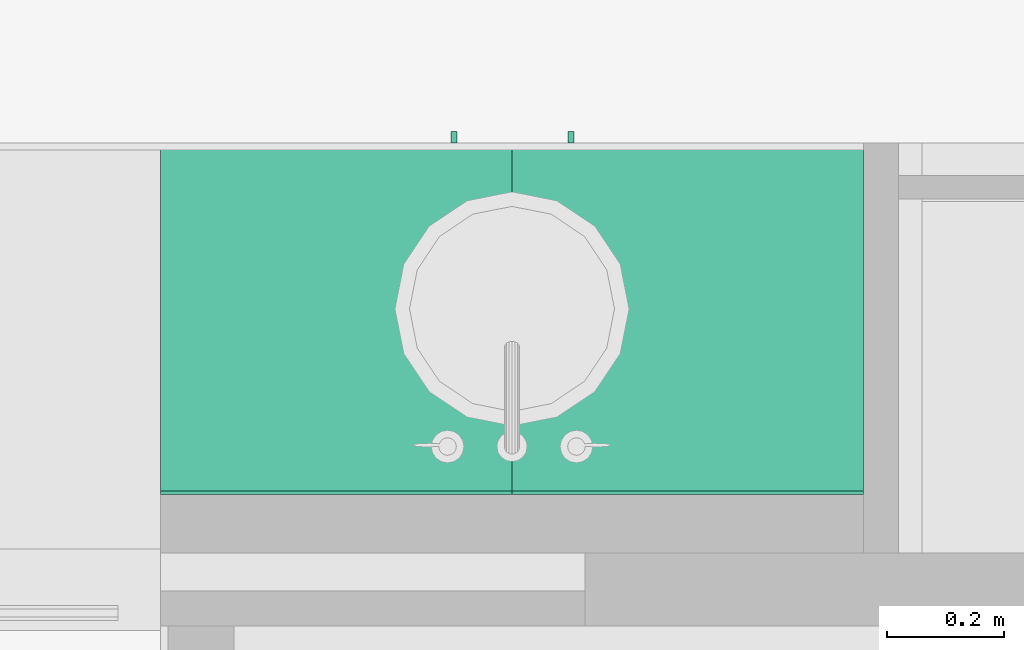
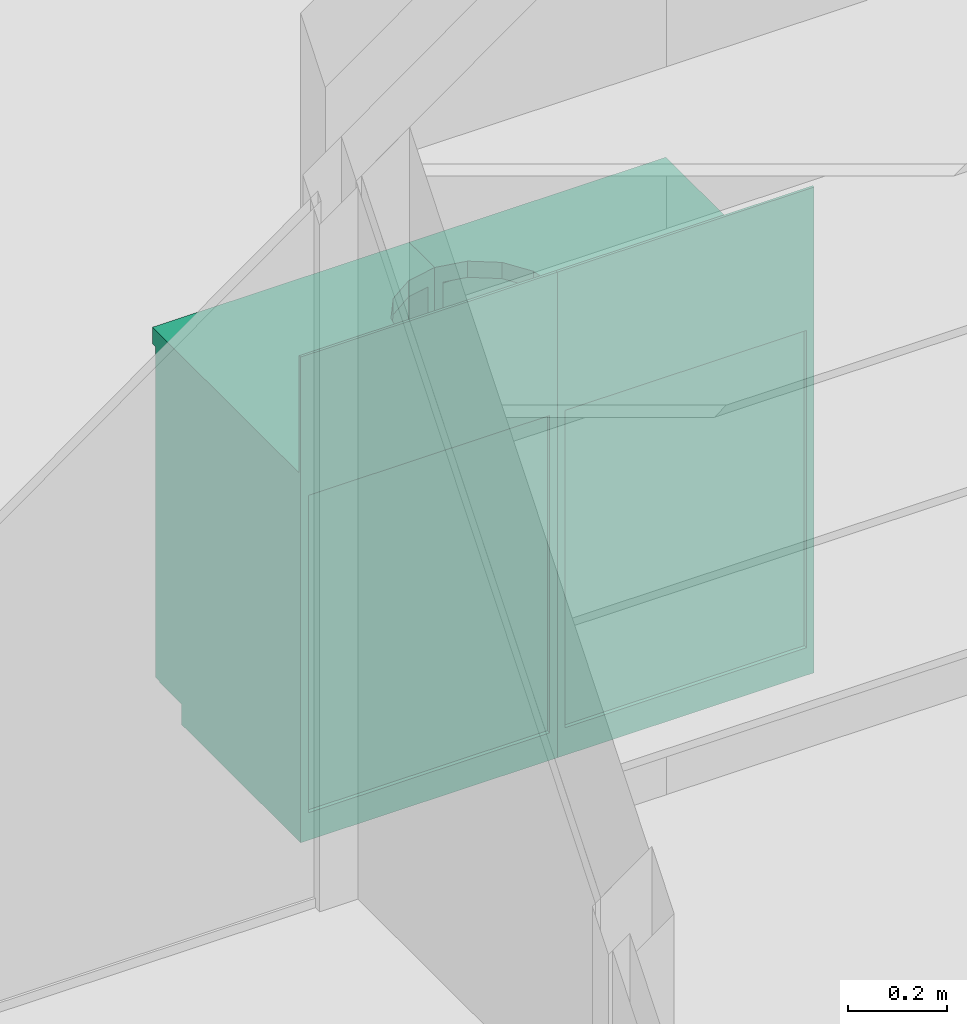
# One storey, part 308 of 347: 2 distribution elements.
"""IFC2X3 building model written with IfcOpenShell, lengths in millimetres."""

import ifcopenshell
import ifcopenshell.guid

model = None  # the IFC model being written
_history = None  # IfcOwnerHistory: only IFC2X3 demands one
_inside = {}  # id of a spatial element -> (the spatial element, [elements in it])
_under = {}  # id of a project, library or spatial element -> (it, [spatial elements below it])
_declared = {}  # id of a project -> (the project, [libraries it declares])
_typed = {}  # id of a type object -> (the type object, [elements of that type])
_made_of = {}  # id of a material, layer set ... -> (it, [elements and type objects made of it])


def new_model(schema):
    """Start an empty IFC model of exactly this schema.

    Asked for "IFC4X3", IfcOpenShell would pick the latest addendum, in which some entities
    have other attributes; the version numbers below select the first issue.
    IFC2X3 requires an IfcOwnerHistory on every rooted entity: one is made here for all.
    """
    global model, _history
    if schema == "IFC4X3":
        model = ifcopenshell.file(schema_version=(4, 3, 0, 0))
    else:
        model = ifcopenshell.file(schema=schema)
    _inside.clear()
    _under.clear()
    _declared.clear()
    _typed.clear()
    _made_of.clear()
    _history = None
    if model.schema == "IFC2X3":
        org = make("IfcOrganization", Name="unknown")
        user = make(
            "IfcPersonAndOrganization",
            ThePerson=make("IfcPerson", FamilyName="unknown"),
            TheOrganization=org,
        )
        app = make(
            "IfcApplication",
            ApplicationDeveloper=org,
            Version="unknown",
            ApplicationFullName="unknown",
            ApplicationIdentifier="unknown",
        )
        _history = make(
            "IfcOwnerHistory",
            OwningUser=user,
            OwningApplication=app,
            ChangeAction="ADDED",
            CreationDate=0,
        )
    return model


def make(cls, **values):
    """One entity of the class cls with the attributes given. An attribute that is None is left unset."""
    return model.create_entity(
        cls, **{name: value for name, value in values.items() if value is not None}
    )


def entity(cls, *values):
    """Any entity or typed value of the class cls, its attributes in the order of the schema. None: left unset."""
    e = model.create_entity(cls)
    for i, value in enumerate(values):
        if value is not None:
            e[i] = value
    return e


def rooted(cls, **values):
    """An entity with a GlobalId (a new one), such as an element, a storey or a relation."""
    return make(cls, GlobalId=ifcopenshell.guid.new(), OwnerHistory=_history, **values)


def si_unit(unit_type, name, prefix=None):
    """IfcSIUnit, for example si_unit("LENGTHUNIT", "METRE", prefix="MILLI")."""
    return make("IfcSIUnit", UnitType=unit_type, Prefix=prefix, Name=name)


def converted_unit(unit_type, name, factor, base, dimensions=None, offset=None):
    """IfcConversionBasedUnit, such as the inch: factor (a typed value) times the base unit."""
    return make(
        "IfcConversionBasedUnit"
        if offset is None
        else "IfcConversionBasedUnitWithOffset",
        ConversionOffset=offset,
        Dimensions=None
        if dimensions is None
        else entity("IfcDimensionalExponents", *dimensions),
        UnitType=unit_type,
        Name=name,
        ConversionFactor=make(
            "IfcMeasureWithUnit", ValueComponent=factor, UnitComponent=base
        ),
    )


def derived_unit(unit_type, elements):
    """IfcDerivedUnit: a product of units, each with its exponent."""
    return make(
        "IfcDerivedUnit",
        Elements=[
            make("IfcDerivedUnitElement", Unit=unit, Exponent=power)
            for unit, power in elements
        ],
        UnitType=unit_type,
    )


def money_unit(currency):
    """IfcMonetaryUnit."""
    return make("IfcMonetaryUnit", Currency=currency)


def assignment(units):
    """IfcUnitAssignment: the units of a project."""
    return None if units is None else make("IfcUnitAssignment", Units=units)


def point(xyz):
    """IfcCartesianPoint."""
    return None if xyz is None else make("IfcCartesianPoint", Coordinates=xyz)


def direction(xyz):
    """IfcDirection."""
    return None if xyz is None else make("IfcDirection", DirectionRatios=xyz)


def frame(location, z_axis=None, x_axis=None):
    """IfcAxis2Placement3D, a coordinate frame: its origin and axes. An axis left out is left unset."""
    return make(
        "IfcAxis2Placement3D",
        Location=point(location),
        Axis=direction(z_axis),
        RefDirection=direction(x_axis),
    )


def origin_with_axes():
    """The frame at (0, 0, 0) with the z axis (0, 0, 1) and the x axis (1, 0, 0) written out."""
    return frame((0.0, 0.0, 0.0), z_axis=(0.0, 0.0, 1.0), x_axis=(1.0, 0.0, 0.0))


def place(relative_to, where):
    """IfcLocalPlacement: puts the frame where relative to a parent placement (None: the world)."""
    return make(
        "IfcLocalPlacement", PlacementRelTo=relative_to, RelativePlacement=where
    )


def context(
    kind, dimensions, precision=None, world=None, true_north=None, identifier=None
):
    """IfcGeometricRepresentationContext, for example the 3D "Model" context."""
    return make(
        "IfcGeometricRepresentationContext",
        ContextIdentifier=identifier,
        ContextType=kind,
        CoordinateSpaceDimension=dimensions,
        Precision=precision,
        WorldCoordinateSystem=world,
        TrueNorth=true_north,
    )


def subcontext(parent, identifier, kind, view, scale=None):
    """IfcGeometricRepresentationSubContext, for example "Body" below "Model"."""
    return make(
        "IfcGeometricRepresentationSubContext",
        ContextIdentifier=identifier,
        ContextType=kind,
        ParentContext=parent,
        TargetScale=scale,
        TargetView=view,
    )


def project(units=None, contexts=None):
    """IfcProject with its units and contexts."""
    return rooted(
        "IfcProject",
        Name="project",
        RepresentationContexts=contexts,
        UnitsInContext=assignment(units),
    )


def spatial(cls, under=None, at=None, **own):
    """A site, building, storey or space (cls), placed at a placement, below another one or the project."""
    s = rooted(cls, ObjectPlacement=at, **own)
    if under is not None:
        _under.setdefault(under.id(), (under, []))[1].append(s)
    return s


def faces_of(points, faces, orient=None, outer=None):
    """IfcFace entities. A face is a list of loops; a loop is a list of indices into points, from 0.

    orient and outer hold one flag for each loop. By default every Orientation is true, the
    first loop of a face is its IfcFaceOuterBound and the others are IfcFaceBound.
    """
    made = []
    for i, loops in enumerate(faces):
        bounds = []
        for j, loop in enumerate(loops):
            is_outer = j == 0 if outer is None else outer[i][j]
            bounds.append(
                make(
                    "IfcFaceOuterBound" if is_outer else "IfcFaceBound",
                    Bound=make("IfcPolyLoop", Polygon=[points[k] for k in loop]),
                    Orientation=True if orient is None else orient[i][j],
                )
            )
        made.append(make("IfcFace", Bounds=bounds))
    return made


def faceted_brep(points, faces, orient=None, outer=None, voids=None):
    """IfcFacetedBrep: a solid bounded by flat faces; with voids (closed shells), ...WithVoids."""
    shared = [point(p) for p in points]
    hull = make("IfcClosedShell", CfsFaces=faces_of(shared, faces, orient, outer))
    if voids is None:
        return make("IfcFacetedBrep", Outer=hull)
    return make(
        "IfcFacetedBrepWithVoids",
        Outer=hull,
        Voids=[
            make(cls, CfsFaces=faces_of(shared, fs, o, b)) for cls, fs, o, b in voids
        ],
    )


def shape(context_of_items, identifier, shape_type, items):
    """IfcShapeRepresentation: the items that make up one representation, for example the "Body"."""
    return make(
        "IfcShapeRepresentation",
        ContextOfItems=context_of_items,
        RepresentationIdentifier=identifier,
        RepresentationType=shape_type,
        Items=items,
    )


def made_of(thing, what):
    """Note that an element or type object is made of a material, layer set ...; save() writes the relation."""
    if what is not None:
        _made_of.setdefault(what.id(), (what, []))[1].append(thing)
    return thing


def type_object(cls, material=None, **own):
    """A type object (cls), such as IfcWallType, which elements share."""
    return made_of(rooted(cls, **own), material)


def element(
    cls,
    number,
    at=None,
    inside=None,
    cuts=None,
    type_object=None,
    material=None,
    context=None,
    identifier="Body",
    shape_type=None,
    held_by="IfcProductDefinitionShape",
    body=None,
    shapes=None,
    **own,
):
    """One element of the class cls, such as IfcWall. Its Tag is "e" and its number.

    at: its placement. inside: the storey or other place that contains it. cuts: it is an
    opening in that element (IfcRelVoidsElement). A single representation is given by context,
    identifier, shape_type and body (its items); several are given by shapes. held_by: the class
    of the entity that holds the representations. save() writes the other relations.
    """
    e = rooted(cls, Tag="e%d" % number, ObjectPlacement=at, **own)
    if body is not None:
        shapes = [shape(context, identifier, shape_type, body)]
    if shapes is not None:
        e.Representation = make(held_by, Representations=shapes)
    if inside is not None:
        _inside.setdefault(inside.id(), (inside, []))[1].append(e)
    if cuts is not None:
        rooted(
            "IfcRelVoidsElement", RelatingBuildingElement=cuts, RelatedOpeningElement=e
        )
    if type_object is not None:
        _typed.setdefault(type_object.id(), (type_object, []))[1].append(e)
    return made_of(e, material)


def aggregate(whole, parts):
    """IfcRelAggregates: a whole, such as a stair, and the parts it consists of."""
    return rooted("IfcRelAggregates", RelatingObject=whole, RelatedObjects=parts)


def save(model, path):
    """Write the relations noted so far, then the file.

    IfcRelAggregates (storeys below a building ...), IfcRelContainedInSpatialStructure (elements
    in a storey), IfcRelDefinesByType, IfcRelAssociatesMaterial and IfcRelDeclares: one each for
    every whole, place, type object, material and project.
    """
    for whole, parts in _under.values():
        aggregate(whole, parts)
    for where, things in _inside.values():
        rooted(
            "IfcRelContainedInSpatialStructure",
            RelatedElements=things,
            RelatingStructure=where,
        )
    for kind, things in _typed.values():
        rooted("IfcRelDefinesByType", RelatedObjects=things, RelatingType=kind)
    for what, things in _made_of.values():
        rooted("IfcRelAssociatesMaterial", RelatedObjects=things, RelatingMaterial=what)
    for by, libraries in _declared.values():
        rooted("IfcRelDeclares", RelatingContext=by, RelatedDefinitions=libraries)
    model.write(path)


model = new_model("IFC2X3")

# Units and contexts
model_context = context("Model", 3, precision=0.01, world=origin_with_axes(), true_north=direction((0.0, 1.0)))
plan_context = context("Plan", 3, precision=0.01, world=origin_with_axes(), true_north=direction((0.0, 1.0)))
body_context = subcontext(model_context, "Body", "Model", "MODEL_VIEW")
ifc_project = project(units=[si_unit("LENGTHUNIT", "METRE", prefix="MILLI"), si_unit("AREAUNIT", "SQUARE_METRE"), si_unit("VOLUMEUNIT", "CUBIC_METRE"), converted_unit("PLANEANGLEUNIT", "DEGREE", entity("IfcPlaneAngleMeasure", 0.0174532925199), si_unit("PLANEANGLEUNIT", "RADIAN"), dimensions=[0, 0, 0, 0, 0, 0, 0]), money_unit("EUR"), converted_unit("TIMEUNIT", "Year", entity("IfcTimeMeasure", 31556926.0), si_unit("TIMEUNIT", "SECOND"), dimensions=[0, 0, 1, 0, 0, 0, 0]), si_unit("MASSUNIT", "GRAM", prefix="KILO"), si_unit("THERMODYNAMICTEMPERATUREUNIT", "DEGREE_CELSIUS"), si_unit("LUMINOUSINTENSITYUNIT", "LUMEN"), si_unit("ENERGYUNIT", "JOULE", prefix="MEGA"), derived_unit("THERMALCONDUCTANCEUNIT", [(si_unit("POWERUNIT", "WATT"), 1), (si_unit("LENGTHUNIT", "METRE"), -1), (si_unit("THERMODYNAMICTEMPERATUREUNIT", "KELVIN"), -1)]), derived_unit("SPECIFICHEATCAPACITYUNIT", [(si_unit("ENERGYUNIT", "JOULE"), 1), (si_unit("MASSUNIT", "GRAM", prefix="KILO"), -1), (si_unit("THERMODYNAMICTEMPERATUREUNIT", "KELVIN"), -1)]), derived_unit("MASSDENSITYUNIT", [(si_unit("MASSUNIT", "GRAM", prefix="KILO"), 1), (si_unit("VOLUMEUNIT", "CUBIC_METRE"), -1)])], contexts=[model_context, plan_context])

# Site, building, storey
site_placement = place(None, origin_with_axes())
site = spatial("IfcSite", under=ifc_project, at=site_placement, Name="Site", CompositionType="ELEMENT")
building_placement = place(site_placement, origin_with_axes())
building = spatial("IfcBuilding", under=site, at=building_placement, Name="Naam gebouw", CompositionType="ELEMENT")
storey_placement = place(building_placement, origin_with_axes())
storey = spatial("IfcBuildingStorey", under=building, at=storey_placement, Name="begane grond", CompositionType="ELEMENT", Elevation=0.0)

# Distribution elements
distribution_element_type = type_object("IfcDistributionElementType", Name="Onderkast recht 25")
distribution_element_1_placement = place(storey_placement, frame((51350.0, 39187.5, 0.0), z_axis=(0.0, 0.0, 1.0), x_axis=(-1.0, 0.0, 0.0)))
element("IfcDistributionElement", 1, at=distribution_element_1_placement, inside=storey, type_object=distribution_element_type, Name="65 Beveiliging_82 pantryblok", context=body_context, shape_type="Brep", body=[
    faceted_brep([(-127.279220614, -444.012913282, 910.0), (-166.298315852, -385.616710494, 910.0), (-180.0, -316.733692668, 910.0), (-166.298315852, -247.850674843, 910.0), (-127.279220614, -189.454472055, 910.0), (-68.8830178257, -150.435376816, 910.0), (0.0, -136.733692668, 910.0), (0.0, 0.0, 910.0), (-600.0, 0.0, 910.0), (-600.0, -600.0, 910.0), (0.0, -600.0, 910.0), (0.0, -496.733692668, 910.0), (-68.8830178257, -483.03200852, 910.0), (-127.279220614, -444.012913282, 870.0), (-166.298315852, -385.616710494, 870.0), (-180.0, -316.733692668, 870.0), (-166.298315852, -247.850674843, 870.0), (-127.279220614, -189.454472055, 870.0), (-68.8830178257, -150.435376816, 870.0), (0.0, -136.733692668, 870.0), (0.0, 0.0, 870.0), (-600.0, 0.0, 870.0), (-600.0, -600.0, 870.0), (0.0, -600.0, 870.0), (0.0, -496.733692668, 870.0), (-68.8830178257, -483.03200852, 870.0)], [[[0, 1, 2, 3, 4, 5, 6, 7, 8, 9, 10, 11, 12]], [[1, 0, 13, 14]], [[2, 1, 14, 15]], [[3, 2, 15, 16]], [[4, 3, 16, 17]], [[5, 4, 17, 18]], [[6, 5, 18, 19]], [[6, 19, 20, 7]], [[20, 21, 8, 7]], [[21, 22, 9, 8]], [[22, 23, 10, 9]], [[24, 11, 10, 23]], [[12, 11, 24, 25]], [[0, 12, 25, 13]], [[25, 24, 23, 22, 21, 20, 19, 18, 17, 16, 15, 14, 13]]]),
    faceted_brep([(-18.0, -512.0, 852.0), (-18.0, -572.0, 852.0), (-582.0, -572.0, 852.0), (-582.0, -512.0, 852.0), (-18.0, -572.0, 870.0), (-18.0, -512.0, 870.0), (-582.0, -572.0, 870.0), (-582.0, -512.0, 870.0)], [[[0, 1, 2, 3]], [[4, 1, 0, 5]], [[1, 4, 6, 2]], [[3, 2, 6, 7]], [[5, 0, 3, 7]], [[4, 5, 7, 6]]]),
    faceted_brep([(-18.0, -9.0, 68.0), (-582.0, -9.0, 68.0), (-582.0, -9.0, 852.0), (-18.0, -9.0, 852.0), (-582.0, -18.0, 68.0), (-18.0, -18.0, 68.0), (-582.0, -18.0, 852.0), (-18.0, -18.0, 852.0)], [[[0, 1, 2, 3]], [[4, 1, 0, 5]], [[1, 4, 6, 2]], [[3, 2, 6, 7]], [[5, 0, 3, 7]], [[4, 5, 7, 6]]]),
    faceted_brep([(-582.0, -60.0, 852.0), (-582.0, 0.0, 852.0), (-18.0, 0.0, 852.0), (-18.0, -60.0, 852.0), (-582.0, 0.0, 870.0), (-582.0, -60.0, 870.0), (-18.0, 0.0, 870.0), (-18.0, -60.0, 870.0)], [[[0, 1, 2, 3]], [[4, 1, 0, 5]], [[1, 4, 6, 2]], [[3, 2, 6, 7]], [[5, 0, 3, 7]], [[4, 5, 7, 6]]]),
    faceted_brep([(-14.8492424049, -201.884450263, 710.0), (-18.0, -205.990597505, 710.0), (-18.0, -205.990597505, 690.0), (-14.8492424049, -201.884450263, 690.0), (-18.0, -140.314115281, 710.0), (-10.5, -198.547159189, 710.0), (-5.43519994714, -196.449250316, 710.0), (0.0, -195.733692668, 710.0), (0.0, -136.733692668, 710.0), (-18.0, -493.153270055, 710.0), (-18.0, -227.476787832, 710.0), (-18.0, -227.476787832, 690.0), (-18.0, -140.314115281, 870.0), (-18.0, 0.0, 870.0), (-18.0, 0.0, 50.0), (-18.0, -572.0, 50.0), (-18.0, -572.0, 870.0), (-18.0, -493.153270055, 870.0), (-14.8492424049, -231.582935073, 690.0), (-10.5, -234.920226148, 690.0), (-5.43519994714, -237.01813502, 690.0), (0.0, -237.733692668, 690.0), (0.0, -195.733692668, 690.0), (-5.43519994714, -196.449250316, 690.0), (-10.5, -198.547159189, 690.0), (0.0, -496.733692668, 710.0), (0.0, -496.733692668, 870.0), (0.0, -572.0, 870.0), (0.0, -572.0, 50.0), (0.0, 0.0, 50.0), (0.0, 0.0, 870.0), (0.0, -136.733692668, 870.0), (0.0, -237.733692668, 710.0), (-5.43519994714, -237.01813502, 710.0), (-10.5, -234.920226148, 710.0), (-14.8492424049, -231.582935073, 710.0)], [[[0, 1, 2, 3]], [[4, 1, 0, 5, 6, 7, 8]], [[9, 10, 11, 2, 1, 4, 12, 13, 14, 15, 16, 17]], [[2, 11, 18, 19, 20, 21, 22, 23, 24, 3]], [[5, 0, 3, 24]], [[6, 5, 24, 23]], [[7, 6, 23, 22]], [[25, 26, 27, 28, 29, 30, 31, 8, 7, 22, 21, 32]], [[31, 12, 4, 8]], [[10, 9, 25, 32, 33, 34, 35]], [[10, 35, 18, 11]], [[12, 31, 30, 13]], [[29, 14, 13, 30]], [[14, 29, 28, 15]], [[15, 28, 27, 16]], [[26, 17, 16, 27]], [[9, 17, 26, 25]], [[35, 34, 19, 18]], [[34, 33, 20, 19]], [[33, 32, 21, 20]]]),
    faceted_brep([(-600.0, 0.0, 50.0), (-600.0, -572.0, 50.0), (-600.0, -572.0, 870.0), (-600.0, 0.0, 870.0), (-582.0, -572.0, 50.0), (-582.0, 0.0, 50.0), (-582.0, -572.0, 870.0), (-582.0, 0.0, 870.0)], [[[0, 1, 2, 3]], [[4, 1, 0, 5]], [[1, 4, 6, 2]], [[3, 2, 6, 7]], [[5, 0, 3, 7]], [[4, 5, 7, 6]]]),
    faceted_brep([(-600.0, 0.0, 910.0), (0.0, 0.0, 910.0), (0.0, -6.0, 910.0), (-600.0, -6.0, 910.0), (-600.0, 0.0, 1200.0), (0.0, 0.0, 1200.0), (0.0, -6.0, 1200.0), (-600.0, -6.0, 1200.0)], [[[0, 1, 2, 3]], [[4, 5, 1, 0]], [[1, 5, 6, 2]], [[3, 2, 6, 7]], [[0, 3, 7, 4]], [[7, 6, 5, 4]]]),
    faceted_brep([(-96.0, -590.0, 386.0), (-106.0, -590.0, 386.0), (-106.0, -590.0, 396.0), (-96.0, -590.0, 396.0), (-96.0, -600.0, 386.0), (-106.0, -600.0, 386.0), (-106.0, -603.472963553, 386.30384494), (-106.0, -606.840402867, 387.206147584), (-106.0, -610.0, 388.679491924), (-106.0, -612.855752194, 390.679111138), (-106.0, -615.320888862, 393.144247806), (-106.0, -617.320508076, 396.0), (-106.0, -618.793852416, 399.159597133), (-106.0, -619.69615506, 402.527036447), (-106.0, -620.0, 406.0), (-106.0, -620.0, 516.0), (-106.0, -619.69615506, 519.472963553), (-106.0, -618.793852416, 522.840402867), (-106.0, -617.320508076, 526.0), (-106.0, -615.320888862, 528.855752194), (-106.0, -612.855752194, 531.320888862), (-106.0, -610.0, 533.320508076), (-106.0, -606.840402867, 534.793852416), (-106.0, -603.472963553, 535.69615506), (-106.0, -600.0, 536.0), (-106.0, -590.0, 536.0), (-106.0, -590.0, 526.0), (-106.0, -600.0, 526.0), (-106.0, -601.736481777, 525.84807753), (-106.0, -603.420201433, 525.396926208), (-106.0, -605.0, 524.660254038), (-106.0, -606.427876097, 523.660444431), (-106.0, -607.660444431, 522.427876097), (-106.0, -608.660254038, 521.0), (-106.0, -609.396926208, 519.420201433), (-106.0, -609.84807753, 517.736481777), (-106.0, -610.0, 516.0), (-106.0, -610.0, 406.0), (-106.0, -609.84807753, 404.263518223), (-106.0, -609.396926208, 402.579798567), (-106.0, -608.660254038, 401.0), (-106.0, -607.660444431, 399.572123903), (-106.0, -606.427876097, 398.339555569), (-106.0, -605.0, 397.339745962), (-106.0, -603.420201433, 396.603073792), (-106.0, -601.736481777, 396.15192247), (-106.0, -600.0, 396.0), (-96.0, -600.0, 396.0), (-96.0, -601.736481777, 396.15192247), (-96.0, -603.420201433, 396.603073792), (-96.0, -605.0, 397.339745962), (-96.0, -606.427876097, 398.339555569), (-96.0, -607.660444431, 399.572123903), (-96.0, -608.660254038, 401.0), (-96.0, -609.396926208, 402.579798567), (-96.0, -609.84807753, 404.263518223), (-96.0, -610.0, 406.0), (-96.0, -610.0, 516.0), (-96.0, -609.84807753, 517.736481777), (-96.0, -609.396926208, 519.420201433), (-96.0, -608.660254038, 521.0), (-96.0, -607.660444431, 522.427876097), (-96.0, -606.427876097, 523.660444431), (-96.0, -605.0, 524.660254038), (-96.0, -603.420201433, 525.396926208), (-96.0, -601.736481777, 525.84807753), (-96.0, -600.0, 526.0), (-96.0, -590.0, 526.0), (-96.0, -590.0, 536.0), (-96.0, -600.0, 536.0), (-96.0, -603.472963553, 535.69615506), (-96.0, -606.840402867, 534.793852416), (-96.0, -610.0, 533.320508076), (-96.0, -612.855752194, 531.320888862), (-96.0, -615.320888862, 528.855752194), (-96.0, -617.320508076, 526.0), (-96.0, -618.793852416, 522.840402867), (-96.0, -619.69615506, 519.472963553), (-96.0, -620.0, 516.0), (-96.0, -620.0, 406.0), (-96.0, -619.69615506, 402.527036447), (-96.0, -618.793852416, 399.159597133), (-96.0, -617.320508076, 396.0), (-96.0, -615.320888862, 393.144247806), (-96.0, -612.855752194, 390.679111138), (-96.0, -610.0, 388.679491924), (-96.0, -606.840402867, 387.206147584), (-96.0, -603.472963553, 386.30384494)], [[[0, 1, 2, 3]], [[4, 5, 1, 0]], [[1, 5, 6, 7, 8, 9, 10, 11, 12, 13, 14, 15, 16, 17, 18, 19, 20, 21, 22, 23, 24, 25, 26, 27, 28, 29, 30, 31, 32, 33, 34, 35, 36, 37, 38, 39, 40, 41, 42, 43, 44, 45, 46, 2]], [[3, 2, 46, 47]], [[0, 3, 47, 48, 49, 50, 51, 52, 53, 54, 55, 56, 57, 58, 59, 60, 61, 62, 63, 64, 65, 66, 67, 68, 69, 70, 71, 72, 73, 74, 75, 76, 77, 78, 79, 80, 81, 82, 83, 84, 85, 86, 87, 4]], [[87, 6, 5, 4]], [[86, 7, 6, 87]], [[85, 8, 7, 86]], [[84, 9, 8, 85]], [[83, 10, 9, 84]], [[82, 11, 10, 83]], [[81, 12, 11, 82]], [[80, 13, 12, 81]], [[79, 14, 13, 80]], [[78, 15, 14, 79]], [[77, 16, 15, 78]], [[76, 17, 16, 77]], [[75, 18, 17, 76]], [[74, 19, 18, 75]], [[73, 20, 19, 74]], [[72, 21, 20, 73]], [[71, 22, 21, 72]], [[70, 23, 22, 71]], [[69, 24, 23, 70]], [[68, 25, 24, 69]], [[67, 26, 25, 68]], [[66, 27, 26, 67]], [[65, 28, 27, 66]], [[64, 29, 28, 65]], [[63, 30, 29, 64]], [[62, 31, 30, 63]], [[61, 32, 31, 62]], [[60, 33, 32, 61]], [[59, 34, 33, 60]], [[58, 35, 34, 59]], [[57, 36, 35, 58]], [[56, 37, 36, 57]], [[55, 38, 37, 56]], [[54, 39, 38, 55]], [[53, 40, 39, 54]], [[52, 41, 40, 53]], [[51, 42, 41, 52]], [[50, 43, 42, 51]], [[49, 44, 43, 50]], [[48, 45, 44, 49]], [[47, 46, 45, 48]]]),
    faceted_brep([(-0.999999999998, -572.0, 51.0), (-0.999999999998, -590.0, 51.0), (-599.0, -590.0, 51.0), (-599.0, -572.0, 51.0), (-0.999999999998, -572.0, 869.0), (-0.999999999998, -590.0, 869.0), (-599.0, -590.0, 869.0), (-599.0, -572.0, 869.0)], [[[0, 1, 2, 3]], [[4, 5, 1, 0]], [[1, 5, 6, 2]], [[3, 2, 6, 7]], [[0, 3, 7, 4]], [[7, 6, 5, 4]]]),
    faceted_brep([(-18.0, -572.0, 50.0), (-18.0, -572.0, 68.0), (-582.0, -572.0, 68.0), (-582.0, -572.0, 50.0), (-18.0, 0.0, 50.0), (-18.0, 0.0, 68.0), (-582.0, 0.0, 68.0), (-582.0, 0.0, 50.0)], [[[0, 1, 2, 3]], [[4, 5, 1, 0]], [[1, 5, 6, 2]], [[3, 2, 6, 7]], [[0, 3, 7, 4]], [[7, 6, 5, 4]]]),
    faceted_brep([(0.0, -482.0, 0.0), (0.0, -482.0, 50.0), (-600.0, -482.0, 50.0), (-600.0, -482.0, 0.0), (0.0, 0.0, 0.0), (0.0, 0.0, 50.0), (-600.0, 0.0, 50.0), (-600.0, 0.0, 0.0)], [[[0, 1, 2, 3]], [[4, 5, 1, 0]], [[1, 5, 6, 2]], [[3, 2, 6, 7]], [[0, 3, 7, 4]], [[7, 6, 5, 4]]]),
])
distribution_element_2_placement = place(storey_placement, frame((50750.0, 39187.5, 0.0), z_axis=(0.0, 0.0, 1.0), x_axis=(-1.0, 0.0, 0.0)))
element("IfcDistributionElement", 2, at=distribution_element_2_placement, inside=storey, type_object=distribution_element_type, Name="65 Beveiliging_82 pantryblok", context=body_context, shape_type="Brep", body=[
    faceted_brep([(-472.720779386, -444.012913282, 910.0), (-531.116982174, -483.03200852, 910.0), (-600.0, -496.733692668, 910.0), (-600.0, -600.0, 910.0), (0.0, -600.0, 910.0), (0.0, 0.0, 910.0), (-600.0, 0.0, 910.0), (-600.0, -136.733692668, 910.0), (-531.116982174, -150.435376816, 910.0), (-472.720779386, -189.454472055, 910.0), (-433.701684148, -247.850674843, 910.0), (-420.0, -316.733692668, 910.0), (-433.701684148, -385.616710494, 910.0), (-472.720779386, -444.012913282, 870.0), (-531.116982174, -483.03200852, 870.0), (-600.0, -496.733692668, 870.0), (-600.0, -600.0, 870.0), (0.0, -600.0, 870.0), (0.0, 0.0, 870.0), (-600.0, 0.0, 870.0), (-600.0, -136.733692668, 870.0), (-531.116982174, -150.435376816, 870.0), (-472.720779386, -189.454472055, 870.0), (-433.701684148, -247.850674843, 870.0), (-420.0, -316.733692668, 870.0), (-433.701684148, -385.616710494, 870.0)], [[[0, 1, 2, 3, 4, 5, 6, 7, 8, 9, 10, 11, 12]], [[1, 0, 13, 14]], [[2, 1, 14, 15]], [[2, 15, 16, 3]], [[16, 17, 4, 3]], [[17, 18, 5, 4]], [[18, 19, 6, 5]], [[20, 7, 6, 19]], [[8, 7, 20, 21]], [[9, 8, 21, 22]], [[10, 9, 22, 23]], [[11, 10, 23, 24]], [[12, 11, 24, 25]], [[0, 12, 25, 13]], [[21, 20, 19, 18, 17, 16, 15, 14, 13, 25, 24, 23, 22]]]),
    faceted_brep([(-18.0, -512.0, 852.0), (-18.0, -572.0, 852.0), (-582.0, -572.0, 852.0), (-582.0, -512.0, 852.0), (-18.0, -572.0, 870.0), (-18.0, -512.0, 870.0), (-582.0, -572.0, 870.0), (-582.0, -512.0, 870.0)], [[[0, 1, 2, 3]], [[4, 1, 0, 5]], [[1, 4, 6, 2]], [[3, 2, 6, 7]], [[5, 0, 3, 7]], [[4, 5, 7, 6]]]),
    faceted_brep([(-18.0, -9.0, 68.0), (-582.0, -9.0, 68.0), (-582.0, -9.0, 852.0), (-18.0, -9.0, 852.0), (-582.0, -18.0, 68.0), (-18.0, -18.0, 68.0), (-582.0, -18.0, 852.0), (-18.0, -18.0, 852.0)], [[[0, 1, 2, 3]], [[4, 1, 0, 5]], [[1, 4, 6, 2]], [[3, 2, 6, 7]], [[5, 0, 3, 7]], [[4, 5, 7, 6]]]),
    faceted_brep([(-582.0, -60.0, 852.0), (-582.0, 0.0, 852.0), (-18.0, 0.0, 852.0), (-18.0, -60.0, 852.0), (-582.0, 0.0, 870.0), (-582.0, -60.0, 870.0), (-18.0, 0.0, 870.0), (-18.0, -60.0, 870.0)], [[[0, 1, 2, 3]], [[4, 1, 0, 5]], [[1, 4, 6, 2]], [[3, 2, 6, 7]], [[5, 0, 3, 7]], [[4, 5, 7, 6]]]),
    faceted_brep([(0.0, -572.0, 50.0), (0.0, 0.0, 50.0), (0.0, 0.0, 870.0), (0.0, -572.0, 870.0), (-18.0, 0.0, 50.0), (-18.0, -572.0, 50.0), (-18.0, 0.0, 870.0), (-18.0, -572.0, 870.0)], [[[0, 1, 2, 3]], [[4, 1, 0, 5]], [[1, 4, 6, 2]], [[3, 2, 6, 7]], [[5, 0, 3, 7]], [[4, 5, 7, 6]]]),
    faceted_brep([(-594.564800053, -196.449250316, 710.0), (-600.0, -195.733692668, 710.0), (-600.0, -195.733692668, 690.0), (-594.564800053, -196.449250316, 690.0), (-600.0, -136.733692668, 710.0), (-589.5, -198.547159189, 710.0), (-585.150757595, -201.884450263, 710.0), (-582.0, -205.990597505, 710.0), (-582.0, -140.314115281, 710.0), (-600.0, -496.733692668, 710.0), (-600.0, -237.733692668, 710.0), (-600.0, -237.733692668, 690.0), (-600.0, -136.733692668, 870.0), (-600.0, 0.0, 870.0), (-600.0, 0.0, 50.0), (-600.0, -572.0, 50.0), (-600.0, -572.0, 870.0), (-600.0, -496.733692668, 870.0), (-594.564800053, -237.01813502, 690.0), (-589.5, -234.920226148, 690.0), (-585.150757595, -231.582935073, 690.0), (-582.0, -227.476787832, 690.0), (-582.0, -205.990597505, 690.0), (-585.150757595, -201.884450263, 690.0), (-589.5, -198.547159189, 690.0), (-582.0, -493.153270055, 710.0), (-582.0, -493.153270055, 870.0), (-582.0, -572.0, 870.0), (-582.0, -572.0, 50.0), (-582.0, 0.0, 50.0), (-582.0, 0.0, 870.0), (-582.0, -140.314115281, 870.0), (-582.0, -227.476787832, 710.0), (-585.150757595, -231.582935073, 710.0), (-589.5, -234.920226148, 710.0), (-594.564800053, -237.01813502, 710.0)], [[[0, 1, 2, 3]], [[4, 1, 0, 5, 6, 7, 8]], [[9, 10, 11, 2, 1, 4, 12, 13, 14, 15, 16, 17]], [[2, 11, 18, 19, 20, 21, 22, 23, 24, 3]], [[5, 0, 3, 24]], [[6, 5, 24, 23]], [[7, 6, 23, 22]], [[25, 26, 27, 28, 29, 30, 31, 8, 7, 22, 21, 32]], [[31, 12, 4, 8]], [[10, 9, 25, 32, 33, 34, 35]], [[10, 35, 18, 11]], [[12, 31, 30, 13]], [[29, 14, 13, 30]], [[28, 15, 14, 29]], [[15, 28, 27, 16]], [[26, 17, 16, 27]], [[17, 26, 25, 9]], [[35, 34, 19, 18]], [[34, 33, 20, 19]], [[33, 32, 21, 20]]]),
    faceted_brep([(-600.0, 0.0, 910.0), (0.0, 0.0, 910.0), (0.0, -6.0, 910.0), (-600.0, -6.0, 910.0), (-600.0, 0.0, 1200.0), (0.0, 0.0, 1200.0), (0.0, -6.0, 1200.0), (-600.0, -6.0, 1200.0)], [[[0, 1, 2, 3]], [[4, 5, 1, 0]], [[1, 5, 6, 2]], [[3, 2, 6, 7]], [[0, 3, 7, 4]], [[7, 6, 5, 4]]]),
    faceted_brep([(-496.0, -590.0, 386.0), (-506.0, -590.0, 386.0), (-506.0, -590.0, 396.0), (-496.0, -590.0, 396.0), (-496.0, -600.0, 386.0), (-506.0, -600.0, 386.0), (-506.0, -603.472963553, 386.30384494), (-506.0, -606.840402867, 387.206147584), (-506.0, -610.0, 388.679491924), (-506.0, -612.855752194, 390.679111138), (-506.0, -615.320888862, 393.144247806), (-506.0, -617.320508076, 396.0), (-506.0, -618.793852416, 399.159597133), (-506.0, -619.69615506, 402.527036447), (-506.0, -620.0, 406.0), (-506.0, -620.0, 516.0), (-506.0, -619.69615506, 519.472963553), (-506.0, -618.793852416, 522.840402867), (-506.0, -617.320508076, 526.0), (-506.0, -615.320888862, 528.855752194), (-506.0, -612.855752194, 531.320888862), (-506.0, -610.0, 533.320508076), (-506.0, -606.840402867, 534.793852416), (-506.0, -603.472963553, 535.69615506), (-506.0, -600.0, 536.0), (-506.0, -590.0, 536.0), (-506.0, -590.0, 526.0), (-506.0, -600.0, 526.0), (-506.0, -601.736481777, 525.84807753), (-506.0, -603.420201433, 525.396926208), (-506.0, -605.0, 524.660254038), (-506.0, -606.427876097, 523.660444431), (-506.0, -607.660444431, 522.427876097), (-506.0, -608.660254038, 521.0), (-506.0, -609.396926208, 519.420201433), (-506.0, -609.84807753, 517.736481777), (-506.0, -610.0, 516.0), (-506.0, -610.0, 406.0), (-506.0, -609.84807753, 404.263518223), (-506.0, -609.396926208, 402.579798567), (-506.0, -608.660254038, 401.0), (-506.0, -607.660444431, 399.572123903), (-506.0, -606.427876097, 398.339555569), (-506.0, -605.0, 397.339745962), (-506.0, -603.420201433, 396.603073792), (-506.0, -601.736481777, 396.15192247), (-506.0, -600.0, 396.0), (-496.0, -600.0, 396.0), (-496.0, -601.736481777, 396.15192247), (-496.0, -603.420201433, 396.603073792), (-496.0, -605.0, 397.339745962), (-496.0, -606.427876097, 398.339555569), (-496.0, -607.660444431, 399.572123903), (-496.0, -608.660254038, 401.0), (-496.0, -609.396926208, 402.579798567), (-496.0, -609.84807753, 404.263518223), (-496.0, -610.0, 406.0), (-496.0, -610.0, 516.0), (-496.0, -609.84807753, 517.736481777), (-496.0, -609.396926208, 519.420201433), (-496.0, -608.660254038, 521.0), (-496.0, -607.660444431, 522.427876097), (-496.0, -606.427876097, 523.660444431), (-496.0, -605.0, 524.660254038), (-496.0, -603.420201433, 525.396926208), (-496.0, -601.736481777, 525.84807753), (-496.0, -600.0, 526.0), (-496.0, -590.0, 526.0), (-496.0, -590.0, 536.0), (-496.0, -600.0, 536.0), (-496.0, -603.472963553, 535.69615506), (-496.0, -606.840402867, 534.793852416), (-496.0, -610.0, 533.320508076), (-496.0, -612.855752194, 531.320888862), (-496.0, -615.320888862, 528.855752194), (-496.0, -617.320508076, 526.0), (-496.0, -618.793852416, 522.840402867), (-496.0, -619.69615506, 519.472963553), (-496.0, -620.0, 516.0), (-496.0, -620.0, 406.0), (-496.0, -619.69615506, 402.527036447), (-496.0, -618.793852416, 399.159597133), (-496.0, -617.320508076, 396.0), (-496.0, -615.320888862, 393.144247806), (-496.0, -612.855752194, 390.679111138), (-496.0, -610.0, 388.679491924), (-496.0, -606.840402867, 387.206147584), (-496.0, -603.472963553, 386.30384494)], [[[0, 1, 2, 3]], [[4, 5, 1, 0]], [[1, 5, 6, 7, 8, 9, 10, 11, 12, 13, 14, 15, 16, 17, 18, 19, 20, 21, 22, 23, 24, 25, 26, 27, 28, 29, 30, 31, 32, 33, 34, 35, 36, 37, 38, 39, 40, 41, 42, 43, 44, 45, 46, 2]], [[3, 2, 46, 47]], [[0, 3, 47, 48, 49, 50, 51, 52, 53, 54, 55, 56, 57, 58, 59, 60, 61, 62, 63, 64, 65, 66, 67, 68, 69, 70, 71, 72, 73, 74, 75, 76, 77, 78, 79, 80, 81, 82, 83, 84, 85, 86, 87, 4]], [[87, 6, 5, 4]], [[86, 7, 6, 87]], [[85, 8, 7, 86]], [[84, 9, 8, 85]], [[83, 10, 9, 84]], [[82, 11, 10, 83]], [[81, 12, 11, 82]], [[80, 13, 12, 81]], [[79, 14, 13, 80]], [[78, 15, 14, 79]], [[77, 16, 15, 78]], [[76, 17, 16, 77]], [[75, 18, 17, 76]], [[74, 19, 18, 75]], [[73, 20, 19, 74]], [[72, 21, 20, 73]], [[71, 22, 21, 72]], [[70, 23, 22, 71]], [[69, 24, 23, 70]], [[68, 25, 24, 69]], [[67, 26, 25, 68]], [[66, 27, 26, 67]], [[65, 28, 27, 66]], [[64, 29, 28, 65]], [[63, 30, 29, 64]], [[62, 31, 30, 63]], [[61, 32, 31, 62]], [[60, 33, 32, 61]], [[59, 34, 33, 60]], [[58, 35, 34, 59]], [[57, 36, 35, 58]], [[56, 37, 36, 57]], [[55, 38, 37, 56]], [[54, 39, 38, 55]], [[53, 40, 39, 54]], [[52, 41, 40, 53]], [[51, 42, 41, 52]], [[50, 43, 42, 51]], [[49, 44, 43, 50]], [[48, 45, 44, 49]], [[47, 46, 45, 48]]]),
    faceted_brep([(-0.999999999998, -572.0, 51.0), (-0.999999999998, -590.0, 51.0), (-599.0, -590.0, 51.0), (-599.0, -572.0, 51.0), (-0.999999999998, -572.0, 869.0), (-0.999999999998, -590.0, 869.0), (-599.0, -590.0, 869.0), (-599.0, -572.0, 869.0)], [[[0, 1, 2, 3]], [[4, 5, 1, 0]], [[1, 5, 6, 2]], [[3, 2, 6, 7]], [[0, 3, 7, 4]], [[7, 6, 5, 4]]]),
    faceted_brep([(-18.0, -572.0, 50.0), (-18.0, -572.0, 68.0), (-582.0, -572.0, 68.0), (-582.0, -572.0, 50.0), (-18.0, 0.0, 50.0), (-18.0, 0.0, 68.0), (-582.0, 0.0, 68.0), (-582.0, 0.0, 50.0)], [[[0, 1, 2, 3]], [[4, 5, 1, 0]], [[1, 5, 6, 2]], [[3, 2, 6, 7]], [[0, 3, 7, 4]], [[7, 6, 5, 4]]]),
    faceted_brep([(0.0, -482.0, 0.0), (0.0, -482.0, 50.0), (-600.0, -482.0, 50.0), (-600.0, -482.0, 0.0), (0.0, 0.0, 0.0), (0.0, 0.0, 50.0), (-600.0, 0.0, 50.0), (-600.0, 0.0, 0.0)], [[[0, 1, 2, 3]], [[4, 5, 1, 0]], [[1, 5, 6, 2]], [[3, 2, 6, 7]], [[0, 3, 7, 4]], [[7, 6, 5, 4]]]),
])

save(model, "model.ifc")
